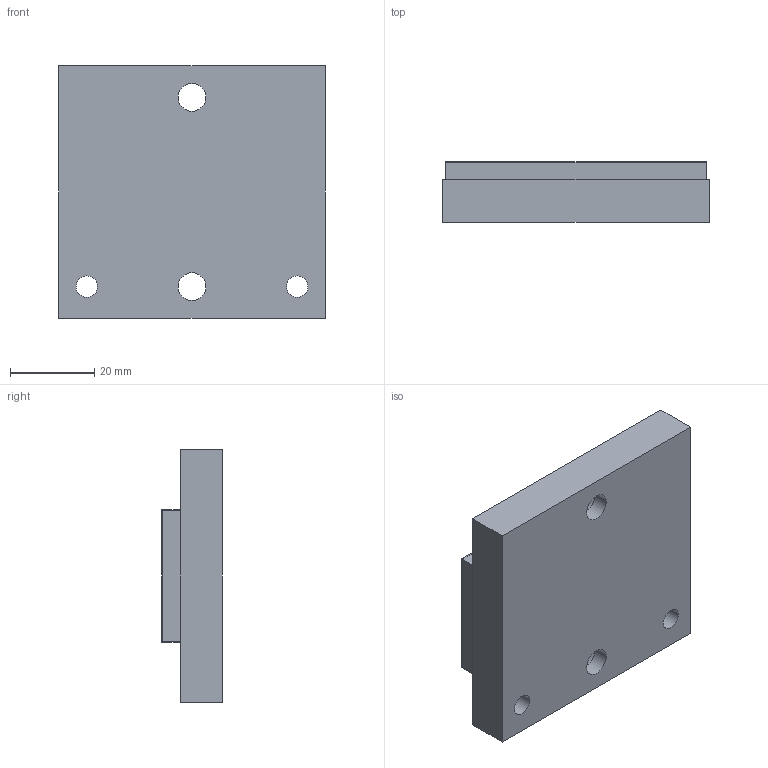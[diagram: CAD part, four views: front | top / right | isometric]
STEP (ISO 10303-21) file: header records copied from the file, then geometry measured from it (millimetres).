
FILE_DESCRIPTION((''),'2;1');
FILE_NAME('MC030-0064-WC','2007-01-14T',('saurabh.singhal'),(''),'PRO/ENGINEER BY PARAMETRIC TECHNOLOGY CORPORATION, 2005450','PRO/ENGINEER BY PARAMETRIC TECHNOLOGY CORPORATION, 2005450','');
FILE_SCHEMA(('CONFIG_CONTROL_DESIGN'));
Length unit declared in the file: millimetre
Products named in the file (1): MC030-0064-WC
Bounding box: 63.3 x 14.4 x 60 mm (x, y, z)
Volume: 43745 mm3; surface area: 17177.5 mm2
Topology: 1 solids, 1 shells, 48 faces, 120 edges, 80 vertices
Faces by surface type: plane 36, cylinder 12
Entity records: 1486 total; most frequent: CARTESIAN_POINT 248, DIRECTION 240, ORIENTED_EDGE 240, EDGE_CURVE 120, VECTOR 96, LINE 96, VERTEX_POINT 80, AXIS2_PLACEMENT_3D 72
